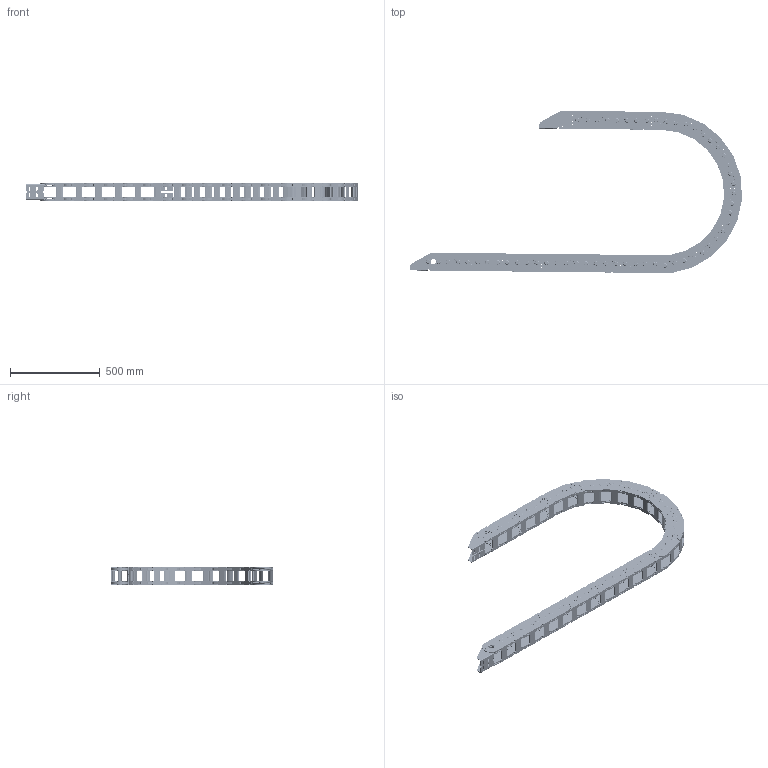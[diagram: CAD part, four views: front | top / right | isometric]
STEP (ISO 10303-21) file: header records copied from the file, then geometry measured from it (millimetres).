
FILE_DESCRIPTION((''),'2;1');
FILE_NAME('80GD-75-R400_ASM','2022-07-31T15:30:35',('admin'),(''),'CREO PARAMETRIC BY PTC INC, 2021164','CREO PARAMETRIC BY PTC INC, 2021164','');
FILE_SCHEMA(('CONFIG_CONTROL_DESIGN','GEOMETRIC_VALIDATION_PROPERTIES_MIM'));
Length unit declared in the file: millimetre
Products named in the file (5): 80-A; 80-B; 80-LTT; 80-LTT-2; 80GD-75-R400_ASM
Assembly tree (30 placements, depth 2):
  80GD-75-R400_ASM
    80-A  x14
    80-B  x14
    80-LTT
    80-LTT-2
Bounding box: 1853.26 x 905.86 x 100.1 mm (x, y, z)
Volume: 12423855.1 mm3; surface area: 3910922.5 mm2
Topology: 116 solids, 116 shells, 4920 faces, 13326 edges, 9034 vertices
Faces by surface type: cylinder 2172, plane 1964, torus 560, cone 224
Entity records: 21477 total; most frequent: DIRECTION 3098, CARTESIAN_POINT 2862, ORIENTED_EDGE 2732, EDGE_CURVE 1366, AXIS2_PLACEMENT_3D 1197, PRESENTATION_STYLE_ASSIGNMENT 1114, STYLED_ITEM 1114, VERTEX_POINT 922
